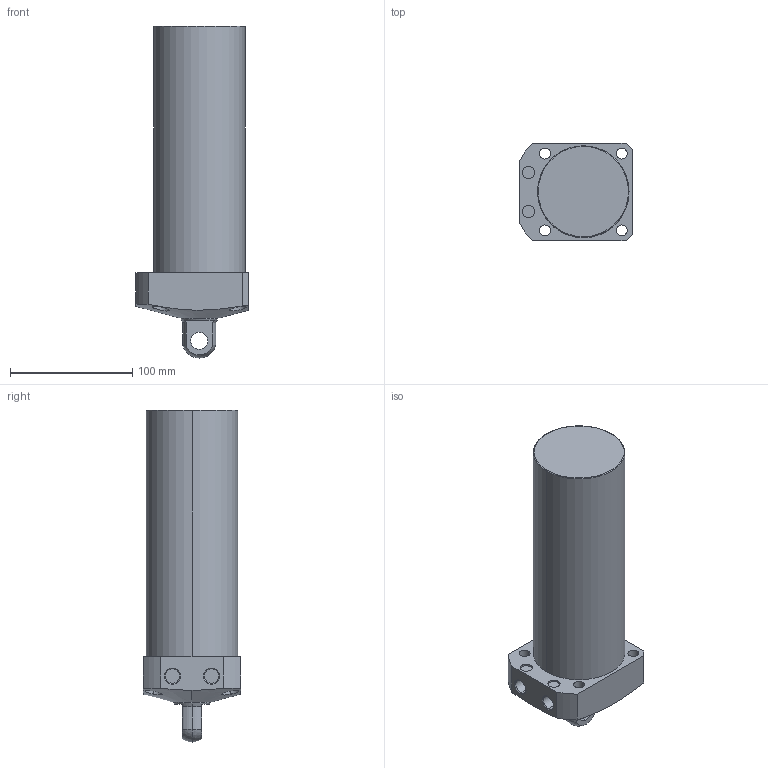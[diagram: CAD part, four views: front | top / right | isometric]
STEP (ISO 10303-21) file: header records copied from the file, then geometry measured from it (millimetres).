
FILE_DESCRIPTION (( 'STEP AP203' ), '1' );
FILE_NAME ('CLL-075CP-165.STEP', '2019-12-25T08:03:01', ( '' ), ( '' ), 'SwSTEP 2.0', 'SolidWorks 2015', '' );
FILE_SCHEMA (( 'CONFIG_CONTROL_DESIGN' ));
Length unit declared in the file: millimetre
Products named in the file (1): CLL-075CP-165
Bounding box: 92 x 80 x 272 mm (x, y, z)
Volume: 1119850.5 mm3; surface area: 79498.8 mm2
Topology: 1 solids, 1 shells, 68 faces, 159 edges, 103 vertices
Faces by surface type: cylinder 35, plane 21, cone 8, sphere 2, torus 2
Entity records: 2459 total; most frequent: CARTESIAN_POINT 762, DIRECTION 357, ORIENTED_EDGE 318, EDGE_CURVE 159, AXIS2_PLACEMENT_3D 149, VERTEX_POINT 103, EDGE_LOOP 88, CIRCLE 80
